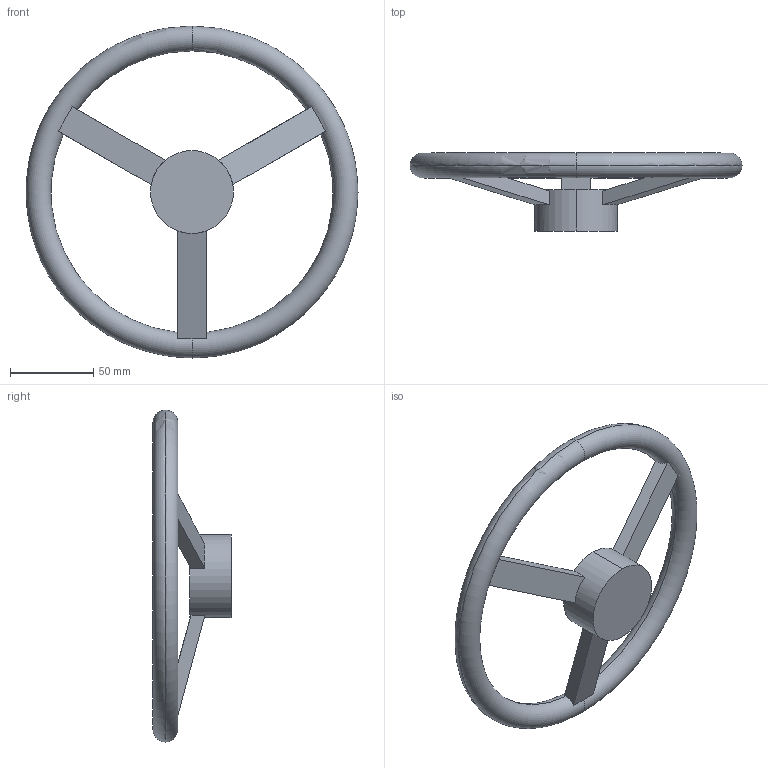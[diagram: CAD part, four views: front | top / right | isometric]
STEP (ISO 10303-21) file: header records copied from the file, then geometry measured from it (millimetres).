
FILE_DESCRIPTION (( 'STEP AP203' ), '1' );
FILE_NAME ('F12-612200.STEP', '2024-12-10T08:07:41', ( '' ), ( '' ), 'SwSTEP 2.0', 'SolidWorks 2021', '' );
FILE_SCHEMA (( 'CONFIG_CONTROL_DESIGN' ));
Length unit declared in the file: millimetre
Products named in the file (1): F12-612200
Bounding box: 200 x 47 x 200 mm (x, y, z)
Volume: 178205.2 mm3; surface area: 44065.5 mm2
Topology: 1 solids, 1 shells, 20 faces, 63 edges, 41 vertices
Faces by surface type: plane 14, torus 4, cylinder 2
Entity records: 894 total; most frequent: CARTESIAN_POINT 297, ORIENTED_EDGE 126, DIRECTION 91, EDGE_CURVE 63, VERTEX_POINT 41, AXIS2_PLACEMENT_3D 35, EDGE_LOOP 22, LINE 21
